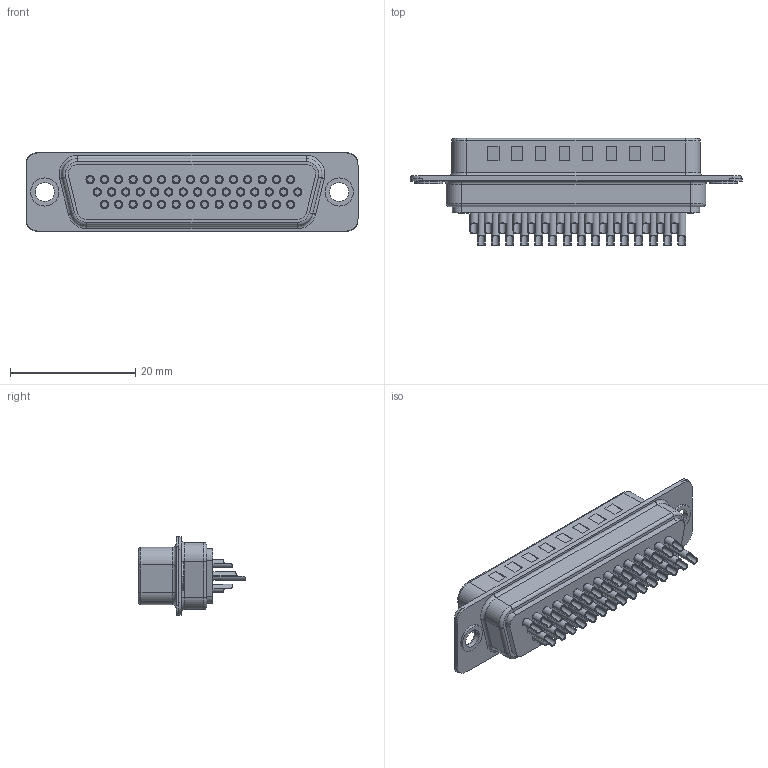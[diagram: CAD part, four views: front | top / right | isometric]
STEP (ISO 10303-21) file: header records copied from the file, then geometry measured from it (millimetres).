
FILE_DESCRIPTION((''),'2;1');
FILE_NAME('3074046700--DSB97C-44BS4YN30_AS','2025-11-18T18:37:15',('Administrator'),(''),'CREO PARAMETRIC BY PTC INC, 2021164','CREO PARAMETRIC BY PTC INC, 2021164','');
FILE_SCHEMA(('AUTOMOTIVE_DESIGN { 1 0 10303 214 1 1 1 1 }'));
Length unit declared in the file: millimetre
Products named in the file (1): 3074046700--DSB97C-44BS4YN30_AS
Bounding box: 53.04 x 17.1 x 12.5 mm (x, y, z)
Volume: 2874.1 mm3; surface area: 4754.2 mm2
Topology: 1 solids, 1 shells, 987 faces, 2598 edges, 1650 vertices
Faces by surface type: cylinder 524, plane 351, sphere 88, torus 24
Entity records: 32325 total; most frequent: CARTESIAN_POINT 8681, ORIENTED_EDGE 5020, DIRECTION 4612, EDGE_CURVE 2510, AXIS2_PLACEMENT_3D 1731, VERTEX_POINT 1650, VECTOR 1150, LINE 1150
